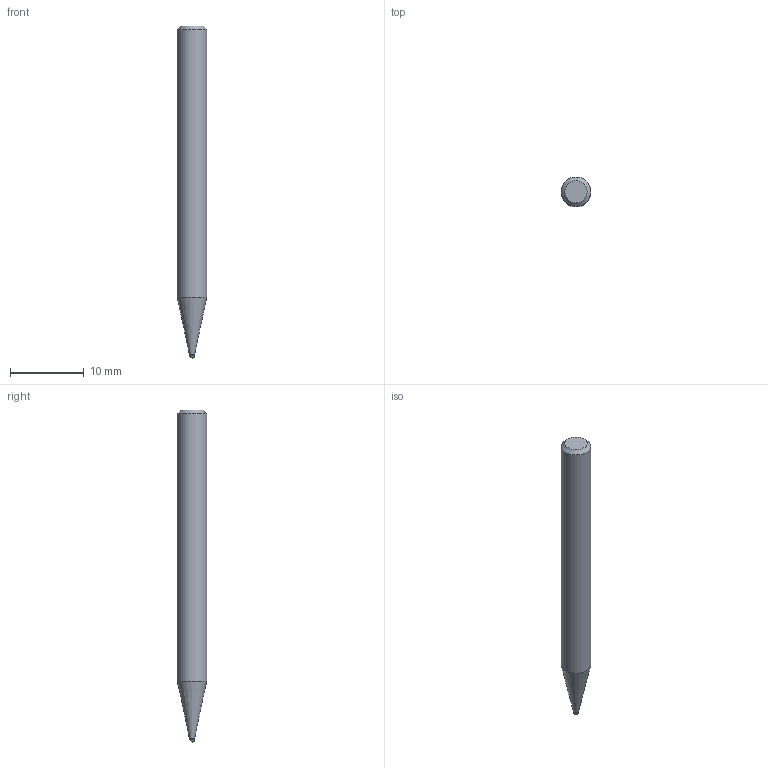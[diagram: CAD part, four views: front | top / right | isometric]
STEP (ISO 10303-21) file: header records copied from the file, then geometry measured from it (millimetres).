
FILE_DESCRIPTION((''),'2;1');
FILE_NAME('C:\Users\nsx150\AppData\Local\Temp\Mastercam 2021\ARV7HD45SN\TEMP.step','2023-06-13T16:34:27',(''),(''),'STEP Write','Mastercam 2021 ... CNC Software, Inc.','');
FILE_SCHEMA(('AUTOMOTIVE_DESIGN'));
Length unit declared in the file: millimetre
Products named in the file (1): None
Bounding box: 4 x 4 x 45 mm (x, y, z)
Volume: 499.6 mm3; surface area: 530.7 mm2
Topology: 2 solids, 2 shells, 8 faces, 12 edges, 7 vertices
Faces by surface type: plane 3, cylinder 2, cone 2, sphere 1
Full cylindrical faces by diameter (mm): 0.7 x1, 4 x1
Entity records: 190 total; most frequent: DIRECTION 32, CARTESIAN_POINT 22, AXIS2_PLACEMENT_3D 16, ORIENTED_EDGE 12, EDGE_LOOP 12, STYLED_ITEM 11, ADVANCED_FACE 8, VERTEX_POINT 6
